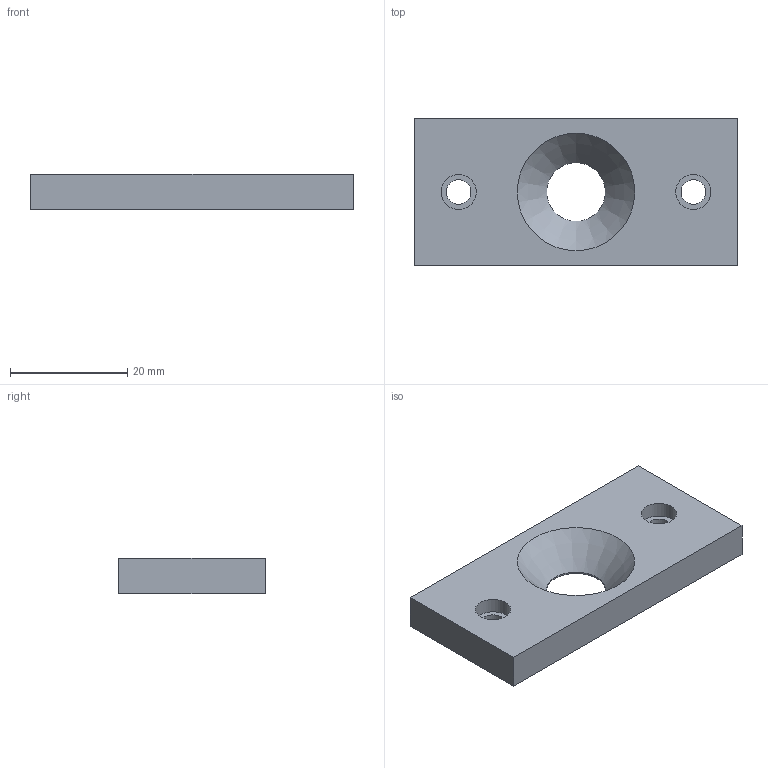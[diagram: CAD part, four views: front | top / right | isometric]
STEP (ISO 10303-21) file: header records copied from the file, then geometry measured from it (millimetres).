
FILE_DESCRIPTION( ( 'Unknown' ), '1' );
FILE_NAME( 'F:/navkite transat/construction/2016/3D ET ASSEMBLAGES/desal/DES 05.stp', 'Unknown', ( 'GMA' ), ( 'Unknown' ), 'XStep 1.0', 'Unknown', ' ' );
FILE_SCHEMA( ( 'automotive_design' ) );
Length unit declared in the file: millimetre
Products named in the file (1): 1
Bounding box: 55 x 25 x 6 mm (x, y, z)
Volume: 6935.2 mm3; surface area: 3816.6 mm2
Topology: 1 solids, 1 shells, 14 faces, 33 edges, 23 vertices
Faces by surface type: plane 8, cylinder 5, cone 1
Full cylindrical faces by diameter (mm): 4.2 x2, 6 x2, 10 x1
Entity records: 486 total; most frequent: DIRECTION 64, CARTESIAN_POINT 57, ORIENTED_EDGE 46, EDGE_LOOP 28, AXIS2_PLACEMENT_3D 26, EDGE_CURVE 23, FACE_OUTER_BOUND 19, VERTEX_POINT 19
